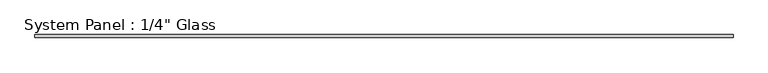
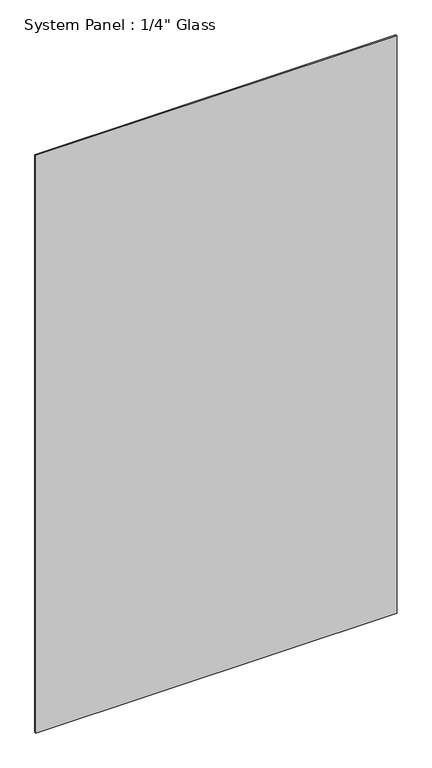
"""IFC4 building model written with IfcOpenShell, lengths in millimetres: plate geometry."""

from ifc_helpers import new_model, si_unit, origin, origin_with_axes, place, context, project, spatial, polyline, outline, extrude, source, transform, mapped, element, save


def plate_62af1d3c(model_context):
    return source(origin(), model_context, "Body", "SweptSolid", [
        extrude(outline(polyline([(736.5873659, -3.175), (-736.5873659, -3.175), (-736.5873659, 3.175), (736.5873659, 3.175), (736.5873659, -3.175)])), origin_with_axes(), (0.0, 0.0, 1.0), 2489.2),
    ])


if __name__ == "__main__":
    model = new_model("IFC4")
    model_context = context("Model", 3, world=origin())
    ifc_project = project(units=[si_unit("LENGTHUNIT", "METRE", prefix="MILLI")], contexts=[model_context])
    site = spatial("IfcSite", under=ifc_project)
    building = spatial("IfcBuilding", under=site)
    placement = place(None, origin())
    plate_shape = plate_62af1d3c(model_context)
    element("IfcPlate", 1, ObjectType="System Panel : 1/4\" Glass", at=placement, inside=building, context=model_context, shape_type="MappedRepresentation", body=[
        mapped(plate_shape, transform((0.0, 0.0, 0.0), x_axis=(1.0, 0.0, 0.0), y_axis=(0.0, 1.0, 0.0), z_axis=(0.0, 0.0, 1.0))),
    ])
    save(model, "model.ifc")
